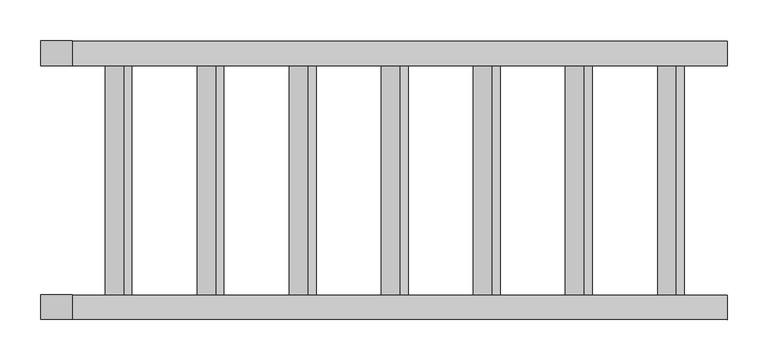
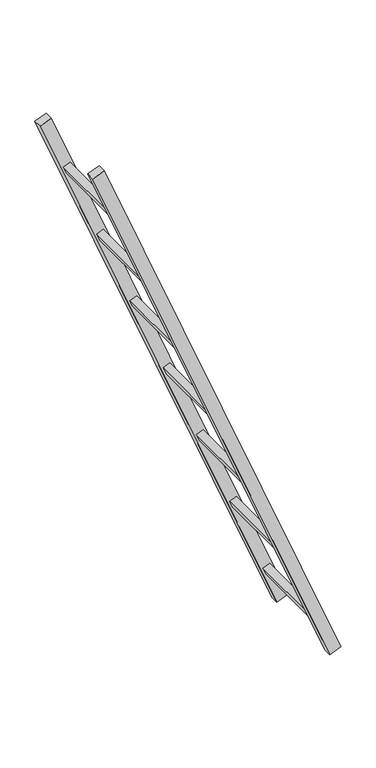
"""IFC4 building model written with IfcOpenShell, lengths in millimetres: proxy geometry, MILLS_ACRAM_ECHELLE_210 : echelle210."""

from ifc_helpers import new_model, si_unit, frame, origin, place, context, project, spatial, polyline, outline, extrude, source, transform, mapped, element, save


def specialty_equipment_5705e18d(model_context):
    return source(origin(), model_context, "Body", "SweptSolid", [
        extrude(outline(polyline([(0.0, -25.0), (0.0, 0.0), (280.0, 0.0), (280.0, -25.0), (0.0, -25.0)])), frame((161.2216577, 450.0, -204.6619463), z_axis=(-0.37460659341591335, 0.0, 0.927183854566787), x_axis=(0.0, -1.0, 0.0)), (0.0, 0.0, 1.0), 25.0),
        extrude(outline(polyline([(0.0, -24.9999999), (0.0, 0.0), (280.0, 0.0), (280.0, -24.9999999), (0.0, -24.9999999)])), frame((273.6036357, 450.0, -482.8171027), z_axis=(-0.37460659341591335, 0.0, 0.927183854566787), x_axis=(0.0, -1.0, 0.0)), (0.0, 0.0, 1.0), 25.0),
        extrude(outline(polyline([(0.0, -25.0), (0.0, 0.0), (280.0, 0.0), (280.0, -25.0), (0.0, -25.0)])), frame((385.9856138, 450.0, -760.9722591), z_axis=(-0.37460659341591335, 0.0, 0.927183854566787), x_axis=(0.0, -1.0, 0.0)), (0.0, 0.0, 1.0), 25.0),
        extrude(outline(polyline([(0.0, -25.0000001), (0.0, 0.0), (280.0, 0.0), (280.0, -25.0000001), (0.0, -25.0000001)])), frame((498.3675918, 450.0, -1039.1274154), z_axis=(-0.37460659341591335, 0.0, 0.927183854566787), x_axis=(0.0, -1.0, 0.0)), (0.0, 0.0, 1.0), 25.0),
        extrude(outline(polyline([(0.0, -25.0), (0.0, 0.0), (280.0, 0.0), (280.0, -25.0), (0.0, -25.0)])), frame((610.7495698, 450.0, -1317.2825718), z_axis=(-0.37460659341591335, 0.0, 0.927183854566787), x_axis=(0.0, -1.0, 0.0)), (0.0, 0.0, 1.0), 25.0),
        extrude(outline(polyline([(0.0, -24.9999999), (0.0, 0.0), (280.0, 0.0), (280.0, -24.9999999), (0.0, -24.9999999)])), frame((723.1315478, 450.0, -1595.4377282), z_axis=(-0.37460659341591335, 0.0, 0.927183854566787), x_axis=(0.0, -1.0, 0.0)), (0.0, 0.0, 1.0), 25.0),
        extrude(outline(polyline([(0.0, -25.0000001), (0.0, 0.0), (280.0, 0.0), (280.0, -25.0000001), (0.0, -25.0000001)])), frame((835.5135259, 450.0, -1873.5928845), z_axis=(-0.37460659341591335, 0.0, 0.927183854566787), x_axis=(0.0, -1.0, 0.0)), (0.0, 0.0, 1.0), 25.0),
        extrude(outline(polyline([(-20.5, -15.0), (-20.5, 15.0), (20.5, 15.0), (20.5, -15.0), (-20.5, -15.0)])), frame((868.8765189, 155.0, -1989.5375295), z_axis=(-0.3746065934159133, 0.0, 0.927183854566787), x_axis=(0.927183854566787, 0.0, 0.3746065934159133)), (0.0, 0.0, 1.0), 2135.0),
        extrude(outline(polyline([(-20.5, -15.0), (-20.5, 15.0), (20.5, 15.0), (20.5, -15.0), (-20.5, -15.0)])), frame((868.8765189, 465.0, -1989.5375295), z_axis=(-0.3746065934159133, 0.0, 0.927183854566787), x_axis=(0.927183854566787, 0.0, 0.3746065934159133)), (0.0, 0.0, 1.0), 2135.0),
    ])


if __name__ == "__main__":
    model = new_model("IFC4")
    model_context = context("Model", 3, world=origin())
    ifc_project = project(units=[si_unit("LENGTHUNIT", "METRE", prefix="MILLI")], contexts=[model_context])
    site = spatial("IfcSite", under=ifc_project)
    building = spatial("IfcBuilding", under=site)
    placement = place(None, origin())
    specialty_equipment_shape = specialty_equipment_5705e18d(model_context)
    element("IfcBuildingElementProxy", 1, Name="MILLS_ACRAM_ECHELLE_210 : echelle210", ObjectType="MILLS_ACRAM_ECHELLE_210 : echelle210", at=placement, inside=building, context=model_context, shape_type="MappedRepresentation", body=[
        mapped(specialty_equipment_shape, transform((0.0, 0.0, 0.0), x_axis=(1.0, 0.0, 0.0), y_axis=(0.0, 1.0, 0.0), z_axis=(0.0, 0.0, 1.0))),
    ])
    save(model, "model.ifc")
